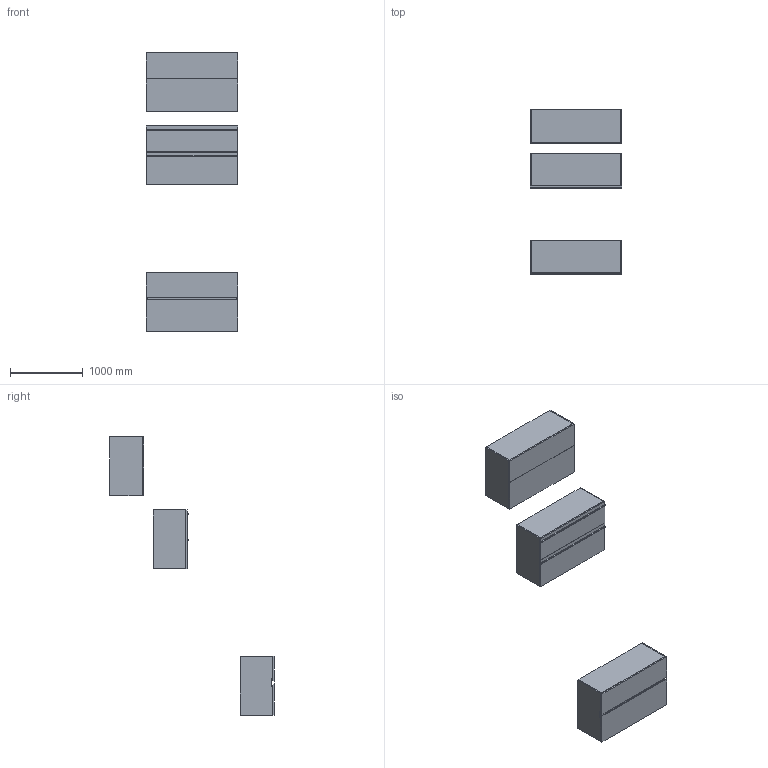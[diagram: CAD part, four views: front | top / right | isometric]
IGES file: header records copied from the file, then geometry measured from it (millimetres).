
Start section: Data from Parasolid IGES Translator 19.0.9, Copyright(c) 2006 Siemens PL M Software. All Rights Reserved.
Global section: file name: noorth-SI-H 81,2 D 47 W 126_8712.igs; native system: By Siemens PLM Incorporated; preprocessor: XPlus GENERIC/IGES 19.0.9; author: Noname; organization: Noname; date: 20200601.134055; units: metre
Bounding box: 1260 x 2270 x 3842 mm (x, y, z)
Volume: 154045926.2 mm3; surface area: 24182423 mm2
Topology: 24 solids, 24 shells, 248 faces, 544 edges, 324 vertices
Faces by surface type: plane 164, extrusion 36, bspline 32, cylinder 16
